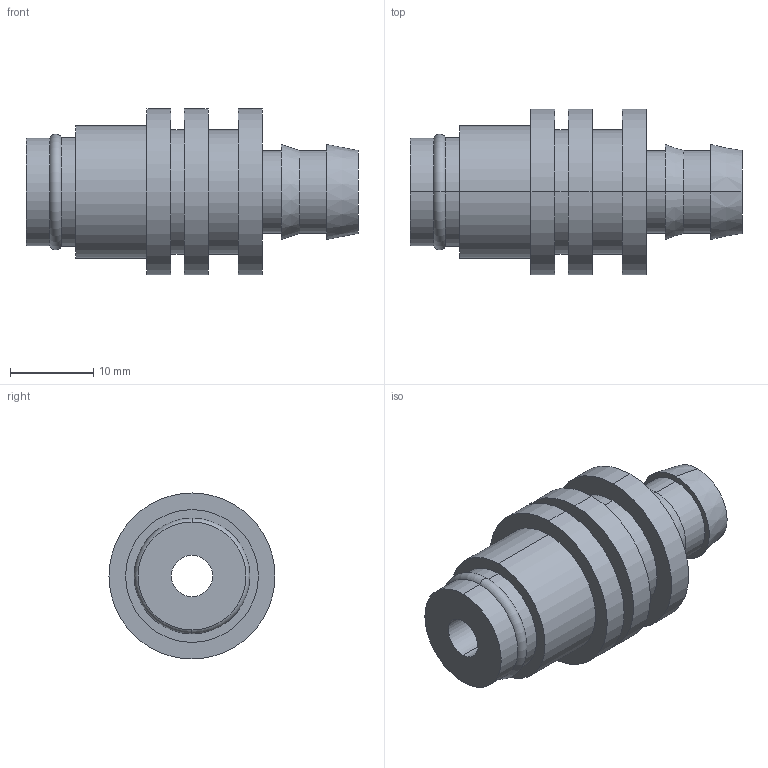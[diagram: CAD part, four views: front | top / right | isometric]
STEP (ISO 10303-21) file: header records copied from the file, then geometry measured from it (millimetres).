
FILE_DESCRIPTION (( 'STEP AP214' ), '1' );
FILE_NAME ('BR85-08.FG10.STEP', '2020-06-23T08:22:44', ( '' ), ( '' ), 'SwSTEP 2.0', 'SolidWorks 2018', '' );
FILE_SCHEMA (( 'AUTOMOTIVE_DESIGN' ));
Length unit declared in the file: millimetre
Products named in the file (1): BR85-08.FG10
Bounding box: 40 x 20 x 20 mm (x, y, z)
Volume: 6376.3 mm3; surface area: 3683.1 mm2
Topology: 1 solids, 1 shells, 39 faces, 78 edges, 50 vertices
Faces by surface type: cylinder 22, plane 11, cone 4, torus 2
Entity records: 1074 total; most frequent: DIRECTION 210, CARTESIAN_POINT 168, ORIENTED_EDGE 156, AXIS2_PLACEMENT_3D 92, EDGE_CURVE 78, CIRCLE 52, VERTEX_POINT 50, EDGE_LOOP 50
